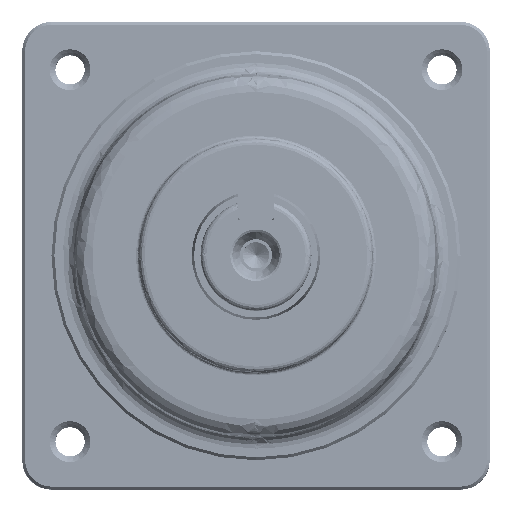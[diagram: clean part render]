
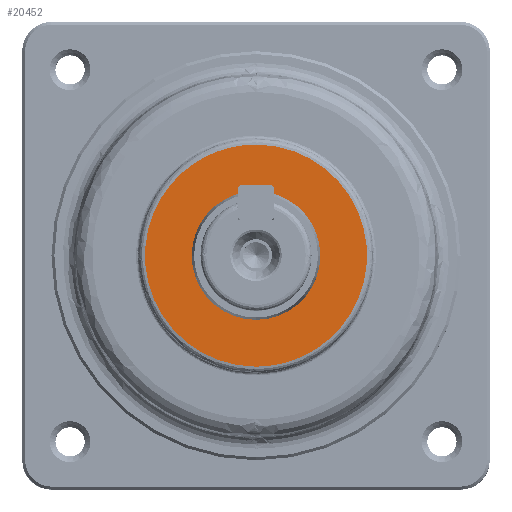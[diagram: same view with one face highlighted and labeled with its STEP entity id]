
A CAD part, top view. The second image highlights one B-rep face of the part: STEP entity #20452.
In plain terms, the highlighted planar face has unit normal (0, 0, 1).
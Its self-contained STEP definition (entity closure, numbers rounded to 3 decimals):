
#510 = AXIS2_PLACEMENT_3D ( 'NONE', #929, #17044, #14540 ) ;
#929 = CARTESIAN_POINT ( 'NONE',  ( 0., 0., 17. ) ) ;
#962 = EDGE_CURVE ( 'NONE', #24268, #17605, #11684, .T. ) ;
#2428 = EDGE_LOOP ( 'NONE', ( #26916, #18229, #22381, #21416 ) ) ;
#2454 = EDGE_CURVE ( 'NONE', #23660, #24268, #19480, .T. ) ;
#2776 = CARTESIAN_POINT ( 'NONE',  ( -0.174, -18.999, 17. ) ) ;
#2869 = CARTESIAN_POINT ( 'NONE',  ( 0., 19., 17. ) ) ;
#3636 = CARTESIAN_POINT ( 'NONE',  ( 0., 19., 17. ) ) ;
#4829 = VERTEX_POINT ( 'NONE', #10727 ) ;
#7552 =( BOUNDED_CURVE ( )  B_SPLINE_CURVE ( 3, ( #33371, #14416, #30637, #22628 ),
 .UNSPECIFIED., .F., .F. ) 
 B_SPLINE_CURVE_WITH_KNOTS ( ( 4, 4 ),
 ( 0.003, 1. ),
 .UNSPECIFIED. ) 
 CURVE ( )  GEOMETRIC_REPRESENTATION_ITEM ( )  RATIONAL_B_SPLINE_CURVE ( ( 1., 0.336, 0.336, 1. ) ) 
 REPRESENTATION_ITEM ( '' )  );
#8930 = CARTESIAN_POINT ( 'NONE',  ( 0.174, 18.999, 17. ) ) ;
#10509 = CARTESIAN_POINT ( 'NONE',  ( -0.174, -18.999, 17. ) ) ;
#10727 = CARTESIAN_POINT ( 'NONE',  ( 0., -19., 17. ) ) ;
#11684 =( BOUNDED_CURVE ( )  B_SPLINE_CURVE ( 3, ( #3636, #27696, #22551, #8930 ),
 .UNSPECIFIED., .F., .F. ) 
 B_SPLINE_CURVE_WITH_KNOTS ( ( 4, 4 ),
 ( 0., 0.003 ),
 .UNSPECIFIED. ) 
 CURVE ( )  GEOMETRIC_REPRESENTATION_ITEM ( )  RATIONAL_B_SPLINE_CURVE ( ( 1., 1., 1., 1. ) ) 
 REPRESENTATION_ITEM ( '' )  );
#14256 =( BOUNDED_CURVE ( )  B_SPLINE_CURVE ( 3, ( #21289, #26939, #18894, #2776 ),
 .UNSPECIFIED., .F., .F. ) 
 B_SPLINE_CURVE_WITH_KNOTS ( ( 4, 4 ),
 ( 0., 0.003 ),
 .UNSPECIFIED. ) 
 CURVE ( )  GEOMETRIC_REPRESENTATION_ITEM ( )  RATIONAL_B_SPLINE_CURVE ( ( 1., 1., 1., 1. ) ) 
 REPRESENTATION_ITEM ( '' )  );
#14416 = CARTESIAN_POINT ( 'NONE',  ( 37.827, 18.655, 17. ) ) ;
#14419 = PLANE ( 'NONE',  #510 ) ;
#14540 = DIRECTION ( 'NONE',  ( 1., 0., 0. ) ) ;
#15955 = EDGE_CURVE ( 'NONE', #4829, #23660, #14256, .T. ) ;
#17044 = DIRECTION ( 'NONE',  ( 0., 0., 1. ) ) ;
#17605 = VERTEX_POINT ( 'NONE', #17889 ) ;
#17889 = CARTESIAN_POINT ( 'NONE',  ( 0.174, 18.999, 17. ) ) ;
#18229 = ORIENTED_EDGE ( 'NONE', *, *, #2454, .F. ) ;
#18894 = CARTESIAN_POINT ( 'NONE',  ( -0.116, -19., 17. ) ) ;
#19480 =( BOUNDED_CURVE ( )  B_SPLINE_CURVE ( 3, ( #10509, #21627, #29506, #2869 ),
 .UNSPECIFIED., .F., .T. ) 
 B_SPLINE_CURVE_WITH_KNOTS ( ( 4, 4 ),
 ( 0.003, 1. ),
 .UNSPECIFIED. ) 
 CURVE ( )  GEOMETRIC_REPRESENTATION_ITEM ( )  RATIONAL_B_SPLINE_CURVE ( ( 1., 0.336, 0.336, 1. ) ) 
 REPRESENTATION_ITEM ( '' )  );
#20452 = ADVANCED_FACE ( 'NONE', ( #33176 ), #14419, .T. ) ;
#21289 = CARTESIAN_POINT ( 'NONE',  ( 0., -19., 17. ) ) ;
#21416 = ORIENTED_EDGE ( 'NONE', *, *, #23009, .F. ) ;
#21627 = CARTESIAN_POINT ( 'NONE',  ( -37.827, -18.655, 17. ) ) ;
#22381 = ORIENTED_EDGE ( 'NONE', *, *, #15955, .F. ) ;
#22551 = CARTESIAN_POINT ( 'NONE',  ( 0.116, 19., 17. ) ) ;
#22628 = CARTESIAN_POINT ( 'NONE',  ( 0., -19., 17. ) ) ;
#23009 = EDGE_CURVE ( 'NONE', #17605, #4829, #7552, .T. ) ;
#23660 = VERTEX_POINT ( 'NONE', #34899 ) ;
#24195 = CARTESIAN_POINT ( 'NONE',  ( 0., 19., 17. ) ) ;
#24268 = VERTEX_POINT ( 'NONE', #24195 ) ;
#26916 = ORIENTED_EDGE ( 'NONE', *, *, #962, .F. ) ;
#26939 = CARTESIAN_POINT ( 'NONE',  ( -0.058, -19., 17. ) ) ;
#27696 = CARTESIAN_POINT ( 'NONE',  ( 0.058, 19., 17. ) ) ;
#29506 = CARTESIAN_POINT ( 'NONE',  ( -37.655, 19., 17. ) ) ;
#30637 = CARTESIAN_POINT ( 'NONE',  ( 37.655, -19., 17. ) ) ;
#33176 = FACE_OUTER_BOUND ( 'NONE', #2428, .T. ) ;
#33371 = CARTESIAN_POINT ( 'NONE',  ( 0.174, 18.999, 17. ) ) ;
#34899 = CARTESIAN_POINT ( 'NONE',  ( -0.174, -18.999, 17. ) ) ;
